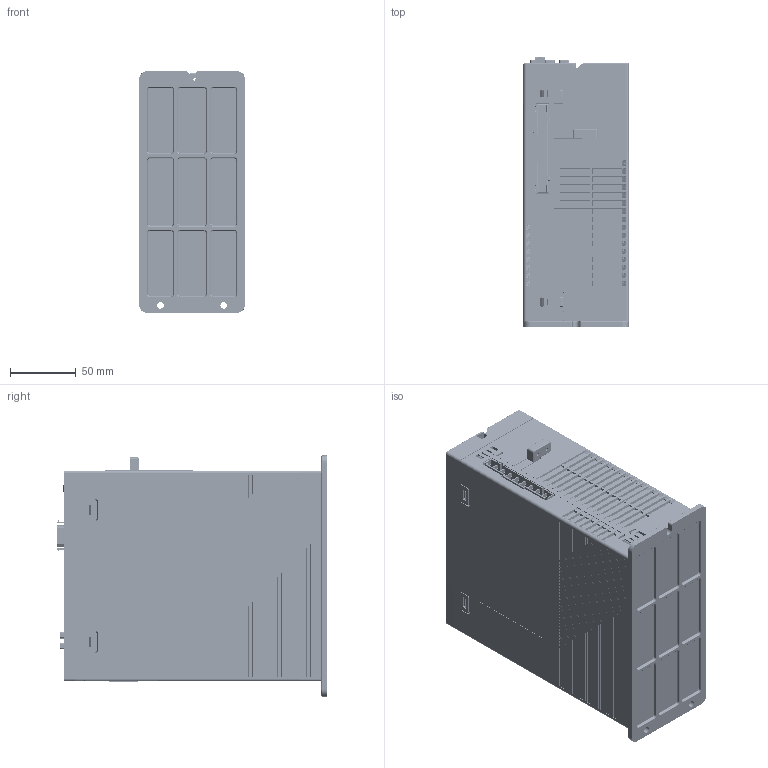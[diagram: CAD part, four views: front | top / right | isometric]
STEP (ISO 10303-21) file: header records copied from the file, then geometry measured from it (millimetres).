
FILE_DESCRIPTION((''),'2;1');
FILE_NAME('BD3-D_ASM','2024-05-13T14:03:46',('qiaolun'),(''),'CREO PARAMETRIC BY PTC INC, 2021063','CREO PARAMETRIC BY PTC INC, 2021063','');
FILE_SCHEMA(('CONFIG_CONTROL_DESIGN'));
Products named in the file (30): 11; 12; 13; 15; 16; 41; 42; 2_ASM; 14; 13_ASM; 17; 18; 19; 20; 21; 22; 23; 16_ASM; 15_ASM; 27; 26_ASM; 29; 28_ASM; 30; 32; 12_ASM; 11_ASM; 9EDGRC-7_5-09P-1Y-1000A_H_; 10_ASM; BD3-D_ASM
Assembly tree (45 placements, depth 7):
  BD3-D_ASM
    2_ASM
      11
      12
      13
      15
      16
      41
      42
    10_ASM
      11_ASM
        12_ASM
          13_ASM
            14
          15_ASM
            16_ASM
              17
              18
              19  x5
              20  x5
              21  x5
              22  x5
              23
          26_ASM
            27
          28_ASM
            29
          30
          32
      9EDGRC-7_5-09P-1Y-1000A_H_
Bounding box: 80.12 x 205.23 x 183 mm (x, y, z)
Surface area: 429493.1 mm2
Topology: 36 solids, 74 shells, 13193 faces, 37164 edges, 24144 vertices
Faces by surface type: plane 9470, cylinder 3014, bspline 249, cone 223, torus 117, sphere 64, extrusion 52, revolution 4
Entity records: 399590 total; most frequent: CARTESIAN_POINT 91338, ORIENTED_EDGE 66760, DIRECTION 60054, EDGE_CURVE 33384, VECTOR 26644, LINE 26592, VERTEX_POINT 21711, AXIS2_PLACEMENT_3D 16703
